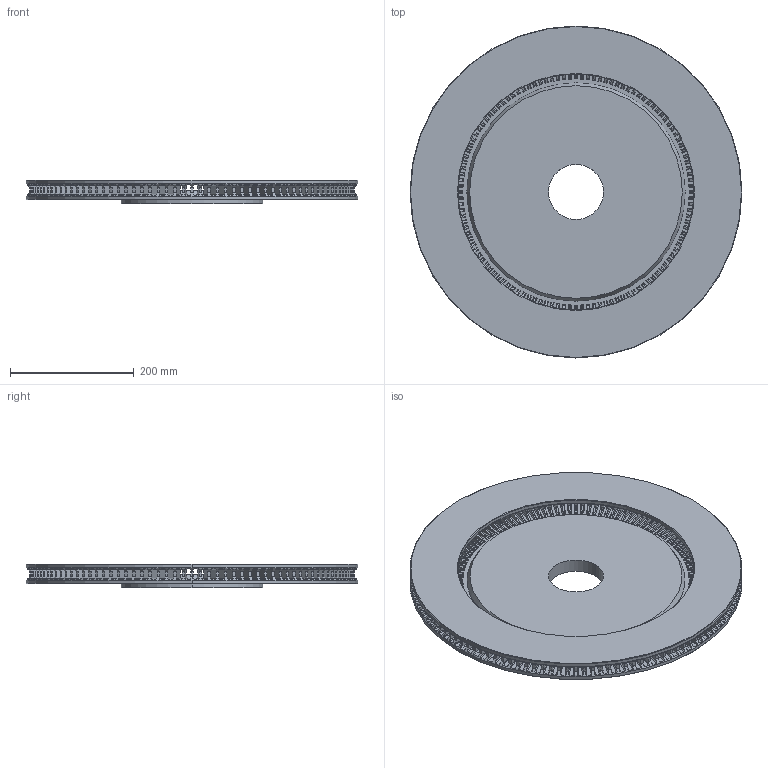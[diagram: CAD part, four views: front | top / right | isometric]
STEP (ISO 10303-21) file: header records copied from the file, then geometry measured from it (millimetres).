
FILE_DESCRIPTION (( 'STEP AP214' ), '1' );
FILE_NAME ('1.25-2.5-21.STEP', '2025-07-16T19:37:37', ( '' ), ( '' ), 'SwSTEP 2.0', 'SolidWorks 2023', '' );
FILE_SCHEMA (( 'AUTOMOTIVE_DESIGN' ));
Length unit declared in the file: inch
Products named in the file (1): 1.25-2.5-21
Bounding box: 535.94 x 535.94 x 38.1 mm (x, y, z)
Volume: 3972061.1 mm3; surface area: 914224.3 mm2
Topology: 1 solids, 1 shells, 1354 faces, 4749 edges, 3161 vertices
Faces by surface type: cylinder 852, cone 256, plane 246
Entity records: 62605 total; most frequent: CARTESIAN_POINT 24145, ORIENTED_EDGE 9498, DIRECTION 6660, EDGE_CURVE 4749, VERTEX_POINT 3161, AXIS2_PLACEMENT_3D 2476, B_SPLINE_CURVE_WITH_KNOTS 1920, VECTOR 1708
